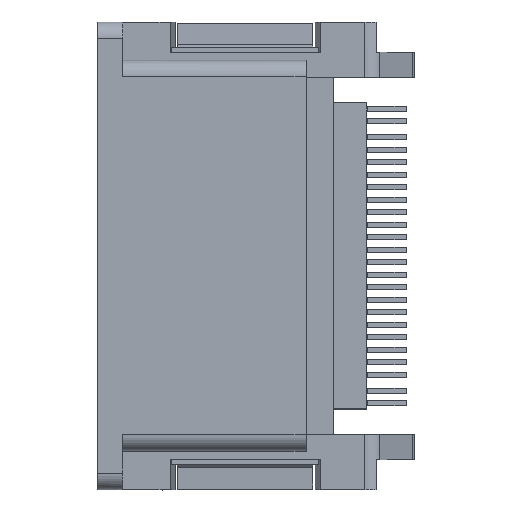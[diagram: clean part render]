
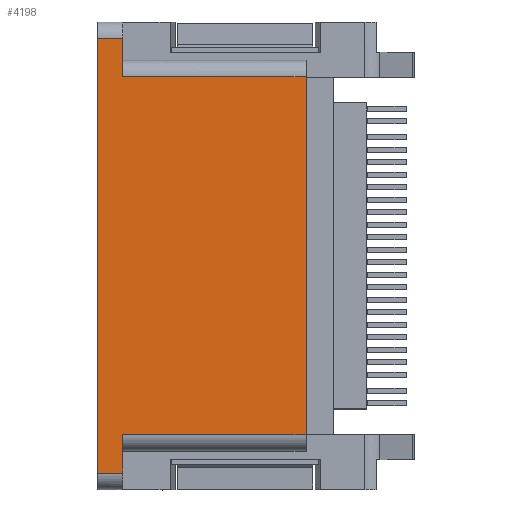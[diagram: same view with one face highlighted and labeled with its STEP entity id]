
A CAD part, top view. The second image highlights one B-rep face of the part: STEP entity #4198.
In plain terms, the highlighted planar face has unit normal (0, 0, 1).
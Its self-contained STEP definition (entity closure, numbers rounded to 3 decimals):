
#4146=AXIS2_PLACEMENT_3D('Plane Axis2P3D',#4143,#4144,#4145) ;
#1204=CARTESIAN_POINT('Vertex',(-11.,-13.025,9.)) ;
#1209=CARTESIAN_POINT('Line Origine',(-11.,0.,9.)) ;
#1213=CARTESIAN_POINT('Vertex',(-11.,13.025,9.)) ;
#4123=CARTESIAN_POINT('Vertex',(-9.5,-13.025,9.)) ;
#4126=CARTESIAN_POINT('Line Origine',(-4.75,-13.025,9.)) ;
#4143=CARTESIAN_POINT('Axis2P3D Location',(0.,11.725,9.)) ;
#4148=CARTESIAN_POINT('Line Origine',(-9.5,-11.875,9.)) ;
#4152=CARTESIAN_POINT('Vertex',(-9.5,-10.725,9.)) ;
#4155=CARTESIAN_POINT('Line Origine',(-4.,-10.725,9.)) ;
#4159=CARTESIAN_POINT('Vertex',(1.5,-10.725,9.)) ;
#4162=CARTESIAN_POINT('Line Origine',(1.5,0.,9.)) ;
#4166=CARTESIAN_POINT('Vertex',(1.5,10.725,9.)) ;
#4169=CARTESIAN_POINT('Line Origine',(-4.,10.725,9.)) ;
#4173=CARTESIAN_POINT('Vertex',(-9.5,10.725,9.)) ;
#4176=CARTESIAN_POINT('Line Origine',(-9.5,11.875,9.)) ;
#4180=CARTESIAN_POINT('Vertex',(-9.5,13.025,9.)) ;
#4183=CARTESIAN_POINT('Line Origine',(-10.25,13.025,9.)) ;
#1210=DIRECTION('Vector Direction',(0.,-1.,0.)) ;
#4127=DIRECTION('Vector Direction',(1.,0.,0.)) ;
#4144=DIRECTION('Axis2P3D Direction',(-0.,0.,-1.)) ;
#4145=DIRECTION('Axis2P3D XDirection',(0.,-1.,0.)) ;
#4149=DIRECTION('Vector Direction',(0.,-1.,0.)) ;
#4156=DIRECTION('Vector Direction',(-1.,0.,0.)) ;
#4163=DIRECTION('Vector Direction',(0.,-1.,0.)) ;
#4170=DIRECTION('Vector Direction',(-1.,0.,0.)) ;
#4177=DIRECTION('Vector Direction',(0.,-1.,0.)) ;
#4184=DIRECTION('Vector Direction',(1.,0.,0.)) ;
#1211=VECTOR('Line Direction',#1210,1.) ;
#4128=VECTOR('Line Direction',#4127,1.) ;
#4150=VECTOR('Line Direction',#4149,1.) ;
#4157=VECTOR('Line Direction',#4156,1.) ;
#4164=VECTOR('Line Direction',#4163,1.) ;
#4171=VECTOR('Line Direction',#4170,1.) ;
#4178=VECTOR('Line Direction',#4177,1.) ;
#4185=VECTOR('Line Direction',#4184,1.) ;
#4189=ORIENTED_EDGE('',*,*,#4130,.T.) ;
#4190=ORIENTED_EDGE('',*,*,#4154,.F.) ;
#4191=ORIENTED_EDGE('',*,*,#4161,.F.) ;
#4192=ORIENTED_EDGE('',*,*,#4168,.F.) ;
#4193=ORIENTED_EDGE('',*,*,#4175,.T.) ;
#4194=ORIENTED_EDGE('',*,*,#4182,.F.) ;
#4195=ORIENTED_EDGE('',*,*,#4187,.F.) ;
#4196=ORIENTED_EDGE('',*,*,#1215,.F.) ;
#4198=ADVANCED_FACE('6098-9727',(#4197),#4147,.F.) ;
#1215=EDGE_CURVE('',#1205,#1214,#1212,.F.) ;
#4130=EDGE_CURVE('',#1205,#4124,#4129,.T.) ;
#4154=EDGE_CURVE('',#4153,#4124,#4151,.T.) ;
#4161=EDGE_CURVE('',#4160,#4153,#4158,.T.) ;
#4168=EDGE_CURVE('',#4167,#4160,#4165,.T.) ;
#4175=EDGE_CURVE('',#4167,#4174,#4172,.T.) ;
#4182=EDGE_CURVE('',#4181,#4174,#4179,.T.) ;
#4187=EDGE_CURVE('',#1214,#4181,#4186,.T.) ;
#4188=EDGE_LOOP('',(#4189,#4190,#4191,#4192,#4193,#4194,#4195,#4196)) ;
#4197=FACE_OUTER_BOUND('',#4188,.T.) ;
#1212=LINE('Line',#1209,#1211) ;
#4129=LINE('Line',#4126,#4128) ;
#4151=LINE('Line',#4148,#4150) ;
#4158=LINE('Line',#4155,#4157) ;
#4165=LINE('Line',#4162,#4164) ;
#4172=LINE('Line',#4169,#4171) ;
#4179=LINE('Line',#4176,#4178) ;
#4186=LINE('Line',#4183,#4185) ;
#4147=PLANE('',#4146) ;
#1205=VERTEX_POINT('',#1204) ;
#1214=VERTEX_POINT('',#1213) ;
#4124=VERTEX_POINT('',#4123) ;
#4153=VERTEX_POINT('',#4152) ;
#4160=VERTEX_POINT('',#4159) ;
#4167=VERTEX_POINT('',#4166) ;
#4174=VERTEX_POINT('',#4173) ;
#4181=VERTEX_POINT('',#4180) ;
